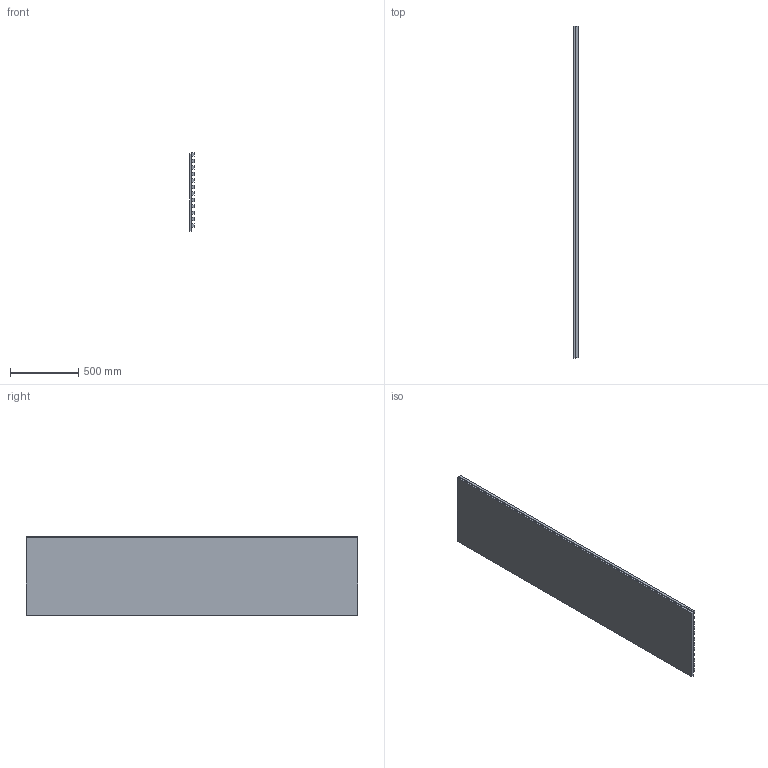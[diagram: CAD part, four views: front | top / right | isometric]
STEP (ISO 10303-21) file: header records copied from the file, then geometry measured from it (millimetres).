
FILE_DESCRIPTION(/* description */ (''),/* implementation_level */ '2;1');
FILE_NAME(/* name */ 'Y:\Design and Engineering\MaterialLogiq\CAD ASSETS\MASTER\SLATTA\WEB ASSETS\SLATTA_1x0.875_0.75.stp',/* time_stamp */ '2024-03-26T14:13:21-05:00',/* author */ ('Grant Baker'),/* organization */ (''),/* preprocessor_version */ 'ST-DEVELOPER v19',/* originating_system */ 'Autodesk Inventor 2023',/* authorisation */ '');
FILE_SCHEMA (('AUTOMOTIVE_DESIGN { 1 0 10303 214 3 1 1 }'));
Length unit declared in the file: inch
Products named in the file (5): PolyGrilleAssembly; Backer; Slat; BackerTrim; SlatTrim
Assembly tree (26 placements, depth 2):
  PolyGrilleAssembly
    Backer
    Slat  x12
    BackerTrim
    SlatTrim  x12
Bounding box: 31.75 x 2438.4 x 577.85 mm (x, y, z)
Volume: 31856452.4 mm3; surface area: 5476440.7 mm2
Topology: 13 solids, 13 shells, 78 faces, 156 edges, 104 vertices
Faces by surface type: plane 78
Entity records: 674 total; most frequent: DIRECTION 110, CARTESIAN_POINT 83, ORIENTED_EDGE 48, AXIS2_PLACEMENT_3D 43, PRODUCT_DEFINITION_SHAPE 31, ITEM_DEFINED_TRANSFORMATION 26, CONTEXT_DEPENDENT_SHAPE_REPRESENTATION 26, NEXT_ASSEMBLY_USAGE_OCCURRENCE 26
